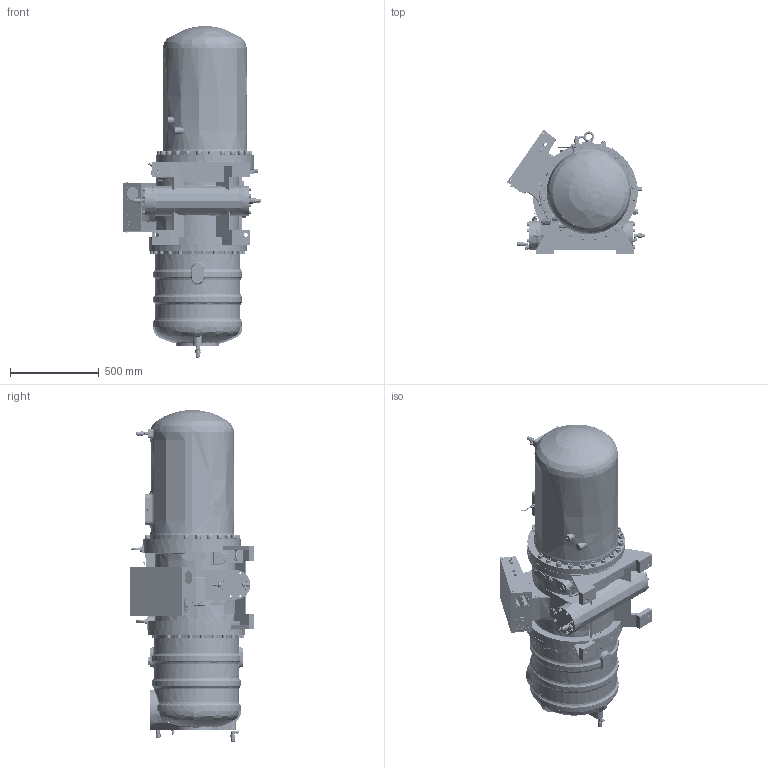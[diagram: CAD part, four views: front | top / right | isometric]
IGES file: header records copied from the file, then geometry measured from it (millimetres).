
Start section: SolidWorks IGES file using analytic representation for surfaces
Global section: file name: \\Datacenterrd1\@研發部\設計一課(冷媒)\(1)-文管中心\(2)-3D文管\(8)-Compressor 3Doutline(Surface)\RC2\RC2-A\IGS\RC2-710A outline.IGS; native system: SolidWorks 2013; preprocessor: SolidWorks 2013; author: hedylu; date: 141225.144505; units: centimetre
Bounding box: 776.8 x 700.45 x 1869 mm (x, y, z)
Surface area: 5853532.5 mm2 (no closed solid volume)
Topology: 0 solids, 0 shells, 2433 faces, 49357 edges, 49352 vertices
Faces by surface type: bspline 1603, revolution 830
